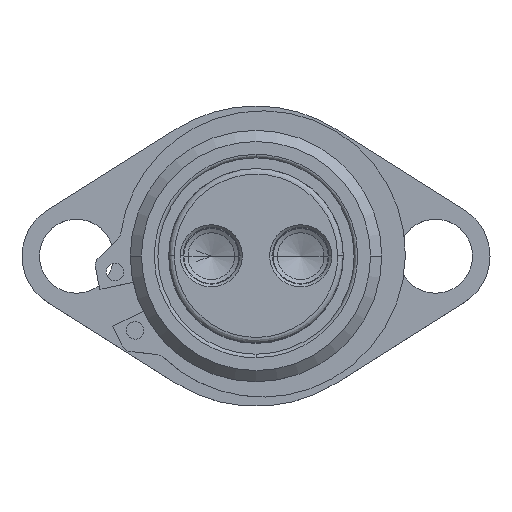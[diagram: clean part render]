
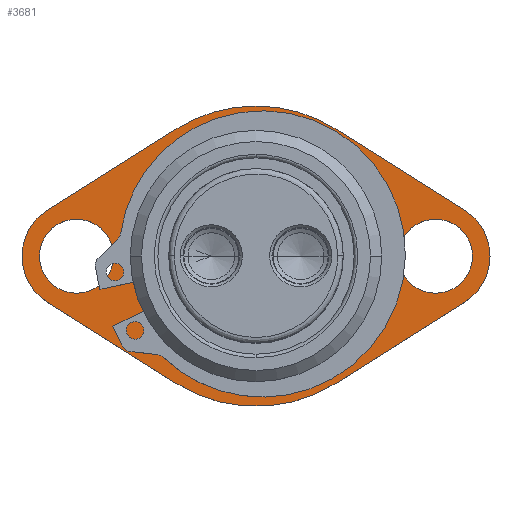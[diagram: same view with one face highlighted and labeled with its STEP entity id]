
A CAD part, top view. The second image highlights one B-rep face of the part: STEP entity #3681.
In plain terms, the highlighted planar face has unit normal (0, 0, 1) as drawn and (0, 1, 0) by its records, which use the part's own axes.
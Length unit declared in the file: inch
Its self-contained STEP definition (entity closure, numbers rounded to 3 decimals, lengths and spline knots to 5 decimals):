
#15 = EDGE_CURVE ( 'NONE', #1472, #2406, #1270, .T. ) ;
#70 = EDGE_CURVE ( 'NONE', #850, #1830, #254, .T. ) ;
#72 = ORIENTED_EDGE ( 'NONE', *, *, #767, .T. ) ;
#105 = VERTEX_POINT ( 'NONE', #1674 ) ;
#129 = DIRECTION ( 'NONE',  ( 0., -1., 0. ) ) ;
#157 = CIRCLE ( 'NONE', #3596, 1.075 ) ;
#187 = AXIS2_PLACEMENT_3D ( 'NONE', #3043, #2980, #3688 ) ;
#199 = CARTESIAN_POINT ( 'NONE',  ( -1.285, 0.25, -0.265 ) ) ;
#200 = AXIS2_PLACEMENT_3D ( 'NONE', #1626, #2346, #3382 ) ;
#201 = CARTESIAN_POINT ( 'NONE',  ( 1.285, 0.25, 0.265 ) ) ;
#206 = CARTESIAN_POINT ( 'NONE',  ( 0., 0.25, 0. ) ) ;
#254 = CIRCLE ( 'NONE', #200, 0.9 ) ;
#347 = DIRECTION ( 'NONE',  ( -0.846, 0., 0.533 ) ) ;
#428 = DIRECTION ( 'NONE',  ( 0., 0., -1. ) ) ;
#442 = ORIENTED_EDGE ( 'NONE', *, *, #3967, .F. ) ;
#462 = VECTOR ( 'NONE', #4386, 39.37008 ) ;
#485 = DIRECTION ( 'NONE',  ( 0., 0., -1. ) ) ;
#495 = EDGE_CURVE ( 'NONE', #2665, #4522, #1748, .T. ) ;
#499 = CARTESIAN_POINT ( 'NONE',  ( 0., 0.25, -1.075 ) ) ;
#537 = AXIS2_PLACEMENT_3D ( 'NONE', #2016, #4100, #3745 ) ;
#567 = LINE ( 'NONE', #4035, #462 ) ;
#573 = CARTESIAN_POINT ( 'NONE',  ( 0.57305, 0.25, 0.90952 ) ) ;
#671 = CARTESIAN_POINT ( 'NONE',  ( -0.57305, 0.25, -0.90952 ) ) ;
#739 = CARTESIAN_POINT ( 'NONE',  ( -1.285, 0.25, 0. ) ) ;
#756 = VERTEX_POINT ( 'NONE', #1433 ) ;
#767 = EDGE_CURVE ( 'NONE', #1830, #850, #2651, .T. ) ;
#796 = EDGE_CURVE ( 'NONE', #4016, #756, #3144, .T. ) ;
#850 = VERTEX_POINT ( 'NONE', #1003 ) ;
#855 = CARTESIAN_POINT ( 'NONE',  ( 0.57305, 0.25, 0.90952 ) ) ;
#943 = VECTOR ( 'NONE', #347, 39.37008 ) ;
#953 = DIRECTION ( 'NONE',  ( 0., 0., -1. ) ) ;
#974 = EDGE_CURVE ( 'NONE', #1472, #4522, #1948, .T. ) ;
#1003 = CARTESIAN_POINT ( 'NONE',  ( 0., 0.25, 0.9 ) ) ;
#1010 = AXIS2_PLACEMENT_3D ( 'NONE', #4562, #2786, #4574 ) ;
#1086 = DIRECTION ( 'NONE',  ( 0., -1., 0. ) ) ;
#1161 = PLANE ( 'NONE',  #2843 ) ;
#1185 = EDGE_CURVE ( 'NONE', #2665, #756, #3245, .T. ) ;
#1207 = CIRCLE ( 'NONE', #1010, 0.265 ) ;
#1270 = CIRCLE ( 'NONE', #4066, 1.075 ) ;
#1272 = CARTESIAN_POINT ( 'NONE',  ( 0., 0.25, 0. ) ) ;
#1293 = CARTESIAN_POINT ( 'NONE',  ( -1.4929, 0.25, 0.32997 ) ) ;
#1302 = VERTEX_POINT ( 'NONE', #201 ) ;
#1433 = CARTESIAN_POINT ( 'NONE',  ( -0.57305, 0.25, 0.90952 ) ) ;
#1437 = AXIS2_PLACEMENT_3D ( 'NONE', #206, #3028, #1516 ) ;
#1448 = DIRECTION ( 'NONE',  ( 0., -1., 0. ) ) ;
#1472 = VERTEX_POINT ( 'NONE', #671 ) ;
#1492 = ORIENTED_EDGE ( 'NONE', *, *, #2641, .F. ) ;
#1515 = EDGE_LOOP ( 'NONE', ( #72, #2414 ) ) ;
#1516 = DIRECTION ( 'NONE',  ( 0., 0., -1. ) ) ;
#1588 = AXIS2_PLACEMENT_3D ( 'NONE', #2289, #4032, #1922 ) ;
#1624 = CARTESIAN_POINT ( 'NONE',  ( -1.285, 0.25, 0.265 ) ) ;
#1626 = CARTESIAN_POINT ( 'NONE',  ( 0., 0.25, 0. ) ) ;
#1628 = ORIENTED_EDGE ( 'NONE', *, *, #3340, .T. ) ;
#1671 = DIRECTION ( 'NONE',  ( 0., 0., -1. ) ) ;
#1674 = CARTESIAN_POINT ( 'NONE',  ( 1.285, 0.25, -0.265 ) ) ;
#1748 = CIRCLE ( 'NONE', #1588, 0.39 ) ;
#1767 = CIRCLE ( 'NONE', #2205, 0.39 ) ;
#1830 = VERTEX_POINT ( 'NONE', #2028 ) ;
#1883 = ORIENTED_EDGE ( 'NONE', *, *, #1185, .T. ) ;
#1890 = CARTESIAN_POINT ( 'NONE',  ( 0., 0.25, 0. ) ) ;
#1900 = DIRECTION ( 'NONE',  ( 0.846, 0., 0.533 ) ) ;
#1922 = DIRECTION ( 'NONE',  ( 0., 0., -1. ) ) ;
#1929 = CARTESIAN_POINT ( 'NONE',  ( -1.4929, 0.25, 0.32997 ) ) ;
#1948 = LINE ( 'NONE', #3852, #943 ) ;
#1999 = CARTESIAN_POINT ( 'NONE',  ( 1.285, 0.25, 0. ) ) ;
#2016 = CARTESIAN_POINT ( 'NONE',  ( 1.285, 0.25, 0. ) ) ;
#2028 = CARTESIAN_POINT ( 'NONE',  ( 0., 0.25, -0.9 ) ) ;
#2095 = VECTOR ( 'NONE', #3002, 39.37008 ) ;
#2105 = EDGE_CURVE ( 'NONE', #4016, #3086, #3248, .T. ) ;
#2148 = FACE_OUTER_BOUND ( 'NONE', #2343, .T. ) ;
#2184 = CARTESIAN_POINT ( 'NONE',  ( 0., 0.25, 0. ) ) ;
#2205 = AXIS2_PLACEMENT_3D ( 'NONE', #1999, #2391, #953 ) ;
#2223 = DIRECTION ( 'NONE',  ( 0., 0., 1. ) ) ;
#2264 = ORIENTED_EDGE ( 'NONE', *, *, #2512, .T. ) ;
#2271 = ORIENTED_EDGE ( 'NONE', *, *, #974, .T. ) ;
#2289 = CARTESIAN_POINT ( 'NONE',  ( -1.285, 0.25, 0. ) ) ;
#2343 = EDGE_LOOP ( 'NONE', ( #4367, #2271, #3398, #1883, #3559, #2962, #442, #2264, #1492 ) ) ;
#2346 = DIRECTION ( 'NONE',  ( 0., -1., 0. ) ) ;
#2373 = EDGE_CURVE ( 'NONE', #2696, #2695, #4251, .T. ) ;
#2391 = DIRECTION ( 'NONE',  ( 0., -1., 0. ) ) ;
#2406 = VERTEX_POINT ( 'NONE', #499 ) ;
#2414 = ORIENTED_EDGE ( 'NONE', *, *, #70, .T. ) ;
#2469 = CIRCLE ( 'NONE', #537, 0.265 ) ;
#2512 = EDGE_CURVE ( 'NONE', #4235, #3797, #567, .T. ) ;
#2538 = ORIENTED_EDGE ( 'NONE', *, *, #2373, .T. ) ;
#2569 = DIRECTION ( 'NONE',  ( 0., 1., 0. ) ) ;
#2578 = EDGE_CURVE ( 'NONE', #1302, #105, #2469, .T. ) ;
#2641 = EDGE_CURVE ( 'NONE', #2406, #3797, #157, .T. ) ;
#2651 = CIRCLE ( 'NONE', #3659, 0.9 ) ;
#2665 = VERTEX_POINT ( 'NONE', #1293 ) ;
#2695 = VERTEX_POINT ( 'NONE', #199 ) ;
#2696 = VERTEX_POINT ( 'NONE', #1624 ) ;
#2786 = DIRECTION ( 'NONE',  ( 0., -1., 0. ) ) ;
#2790 = CARTESIAN_POINT ( 'NONE',  ( -1.4929, 0.25, -0.32997 ) ) ;
#2843 = AXIS2_PLACEMENT_3D ( 'NONE', #2956, #2569, #2223 ) ;
#2883 = DIRECTION ( 'NONE',  ( 0., 0., -1. ) ) ;
#2956 = CARTESIAN_POINT ( 'NONE',  ( -1.285, 0.25, 0. ) ) ;
#2962 = ORIENTED_EDGE ( 'NONE', *, *, #2105, .T. ) ;
#2971 = ORIENTED_EDGE ( 'NONE', *, *, #3543, .T. ) ;
#2980 = DIRECTION ( 'NONE',  ( 0., -1., 0. ) ) ;
#3002 = DIRECTION ( 'NONE',  ( 0.846, 0., -0.533 ) ) ;
#3028 = DIRECTION ( 'NONE',  ( 0., -1., 0. ) ) ;
#3043 = CARTESIAN_POINT ( 'NONE',  ( 1.285, 0.25, 0. ) ) ;
#3086 = VERTEX_POINT ( 'NONE', #3214 ) ;
#3144 = CIRCLE ( 'NONE', #1437, 1.075 ) ;
#3187 = FACE_BOUND ( 'NONE', #1515, .T. ) ;
#3214 = CARTESIAN_POINT ( 'NONE',  ( 1.4929, 0.25, 0.32997 ) ) ;
#3245 = LINE ( 'NONE', #1929, #3969 ) ;
#3248 = LINE ( 'NONE', #855, #2095 ) ;
#3340 = EDGE_CURVE ( 'NONE', #105, #1302, #3813, .T. ) ;
#3367 = EDGE_LOOP ( 'NONE', ( #1628, #4424 ) ) ;
#3382 = DIRECTION ( 'NONE',  ( 0., 0., -1. ) ) ;
#3398 = ORIENTED_EDGE ( 'NONE', *, *, #495, .F. ) ;
#3408 = FACE_BOUND ( 'NONE', #3367, .T. ) ;
#3543 = EDGE_CURVE ( 'NONE', #2695, #2696, #1207, .T. ) ;
#3559 = ORIENTED_EDGE ( 'NONE', *, *, #796, .F. ) ;
#3571 = FACE_BOUND ( 'NONE', #4334, .T. ) ;
#3596 = AXIS2_PLACEMENT_3D ( 'NONE', #1272, #3719, #1671 ) ;
#3659 = AXIS2_PLACEMENT_3D ( 'NONE', #2184, #1448, #428 ) ;
#3681 = ADVANCED_FACE ( 'NONE', ( #3571, #2148, #3408, #3187 ), #1161, .T. ) ;
#3688 = DIRECTION ( 'NONE',  ( 0., 0., -1. ) ) ;
#3719 = DIRECTION ( 'NONE',  ( 0., -1., 0. ) ) ;
#3745 = DIRECTION ( 'NONE',  ( 0., 0., -1. ) ) ;
#3797 = VERTEX_POINT ( 'NONE', #4428 ) ;
#3813 = CIRCLE ( 'NONE', #187, 0.265 ) ;
#3852 = CARTESIAN_POINT ( 'NONE',  ( -1.4929, 0.25, -0.32997 ) ) ;
#3857 = CARTESIAN_POINT ( 'NONE',  ( 1.4929, 0.25, -0.32997 ) ) ;
#3967 = EDGE_CURVE ( 'NONE', #4235, #3086, #1767, .T. ) ;
#3969 = VECTOR ( 'NONE', #1900, 39.37008 ) ;
#4016 = VERTEX_POINT ( 'NONE', #573 ) ;
#4032 = DIRECTION ( 'NONE',  ( 0., -1., 0. ) ) ;
#4035 = CARTESIAN_POINT ( 'NONE',  ( 0.57305, 0.25, -0.90952 ) ) ;
#4066 = AXIS2_PLACEMENT_3D ( 'NONE', #1890, #129, #485 ) ;
#4070 = AXIS2_PLACEMENT_3D ( 'NONE', #739, #1086, #2883 ) ;
#4100 = DIRECTION ( 'NONE',  ( 0., -1., 0. ) ) ;
#4235 = VERTEX_POINT ( 'NONE', #3857 ) ;
#4251 = CIRCLE ( 'NONE', #4070, 0.265 ) ;
#4334 = EDGE_LOOP ( 'NONE', ( #2971, #2538 ) ) ;
#4367 = ORIENTED_EDGE ( 'NONE', *, *, #15, .F. ) ;
#4386 = DIRECTION ( 'NONE',  ( -0.846, 0., -0.533 ) ) ;
#4424 = ORIENTED_EDGE ( 'NONE', *, *, #2578, .T. ) ;
#4428 = CARTESIAN_POINT ( 'NONE',  ( 0.57305, 0.25, -0.90952 ) ) ;
#4522 = VERTEX_POINT ( 'NONE', #2790 ) ;
#4562 = CARTESIAN_POINT ( 'NONE',  ( -1.285, 0.25, 0. ) ) ;
#4574 = DIRECTION ( 'NONE',  ( 0., 0., -1. ) ) ;
